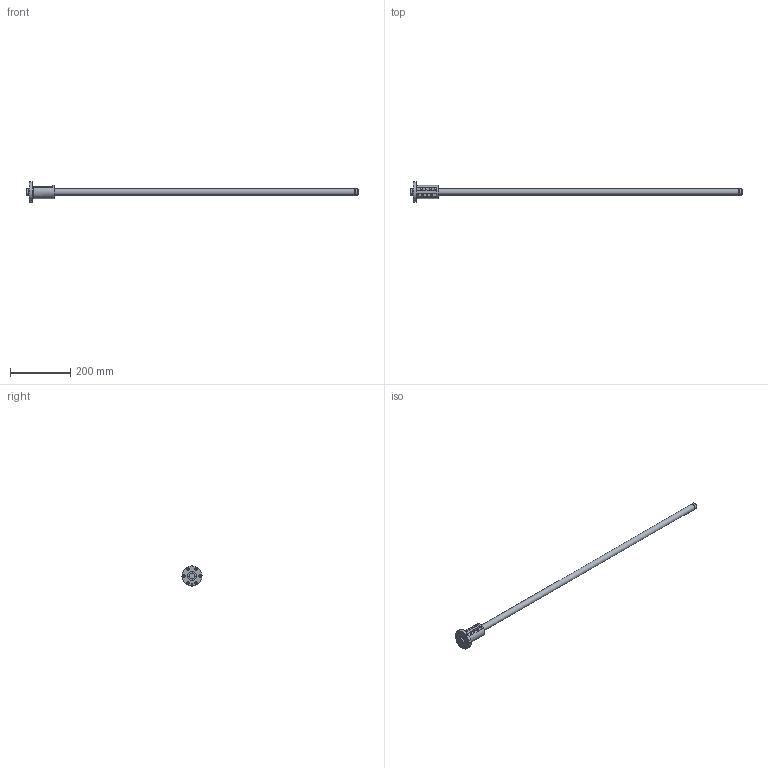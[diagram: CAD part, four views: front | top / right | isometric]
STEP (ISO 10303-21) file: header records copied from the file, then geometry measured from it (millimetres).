
FILE_DESCRIPTION( ( 'STEP AP203' ), ' ' );
FILE_NAME( 'p:/temp/worker_16/3916_4020/app_80_12018011811182433743207818fa3fd_000000_00_00_000000/format_0/BIF2005-10RRG0+1106LC2_10000.stp', '2018-01-18T10:18:25', ( '' ), ( '' ), ' ', 'PARTsolutions', ' ' );
FILE_SCHEMA( ( 'CONFIG_CONTROL_DESIGN' ) );
Length unit declared in the file: millimetre
Products named in the file (3): BIF2005-10RRG0+1106LC2_10000; _BIF 2005-10RR1000500 Shaft; _BIF 2005-10RR Nut
Assembly tree (2 placements, depth 2):
  BIF2005-10RRG0+1106LC2_10000
    _BIF 2005-10RR1000500 Shaft
    _BIF 2005-10RR Nut
Bounding box: 1106 x 67 x 67 mm (x, y, z)
Volume: 459407.6 mm3; surface area: 97301 mm2
Topology: 2 solids, 2 shells, 82 faces, 186 edges, 121 vertices
Faces by surface type: cylinder 39, plane 27, cone 8, torus 8
Full cylindrical faces by diameter (mm): 3.35 x2, 4.917 x1, 5.5 x6, 9.5 x6, 19.5 x2, 20 x4, 28.8 x2, 44 x1, 67 x1
Entity records: 2728 total; most frequent: CARTESIAN_POINT 865, DIRECTION 384, ORIENTED_EDGE 294, AXIS2_PLACEMENT_3D 168, EDGE_CURVE 147, EDGE_LOOP 144, VERTEX_POINT 115, FACE_OUTER_BOUND 107
